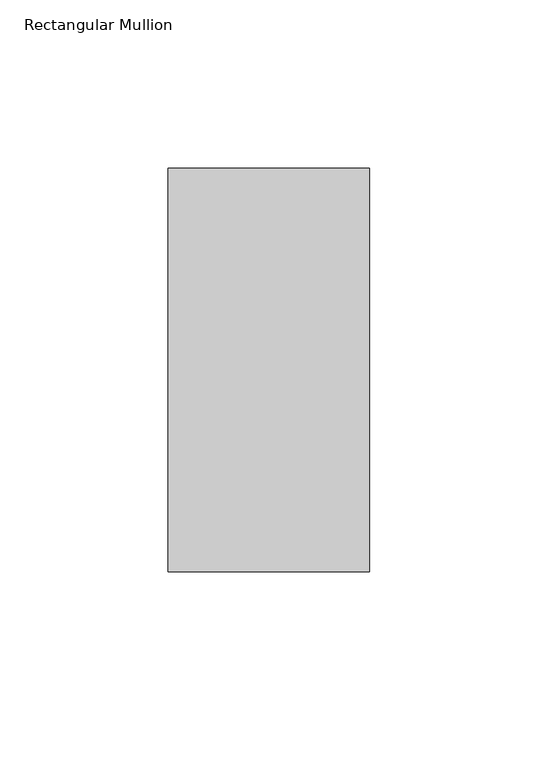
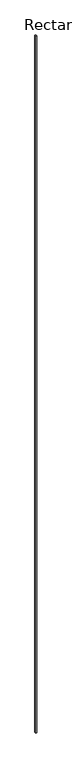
"""IFC4 building model written with IfcOpenShell, lengths in millimetres: member geometry, Rectangular Mullion : Terça."""

from ifc_helpers import new_model, si_unit, frame, origin, place, context, project, spatial, polyline, outline, extrude, source, transform, mapped, element, save


def rectangular_mullion_19773bea(model_context):
    return source(origin(), model_context, "Body", "SweptSolid", [
        extrude(outline(polyline([(30.0, -120.0), (-30.0, -120.0), (-30.0, 0.0), (30.0, 0.0), (30.0, -120.0)])), frame((0.0, 0.0, -47920.4270994), z_axis=(0.0, 0.0, 1.0), x_axis=(1.0, 0.0, 0.0)), (0.0, 0.0, 1.0), 47920.4270994),
    ])


if __name__ == "__main__":
    model = new_model("IFC4")
    model_context = context("Model", 3, world=origin())
    ifc_project = project(units=[si_unit("LENGTHUNIT", "METRE", prefix="MILLI")], contexts=[model_context])
    site = spatial("IfcSite", under=ifc_project)
    building = spatial("IfcBuilding", under=site)
    placement = place(None, origin())
    rectangular_mullion_shape = rectangular_mullion_19773bea(model_context)
    element("IfcMember", 1, ObjectType="Rectangular Mullion : Terça", at=placement, inside=building, context=model_context, shape_type="MappedRepresentation", body=[
        mapped(rectangular_mullion_shape, transform((0.0, 0.0, 0.0), x_axis=(1.0, 0.0, 0.0), y_axis=(0.0, 1.0, 0.0), z_axis=(0.0, 0.0, 1.0))),
    ])
    save(model, "model.ifc")
